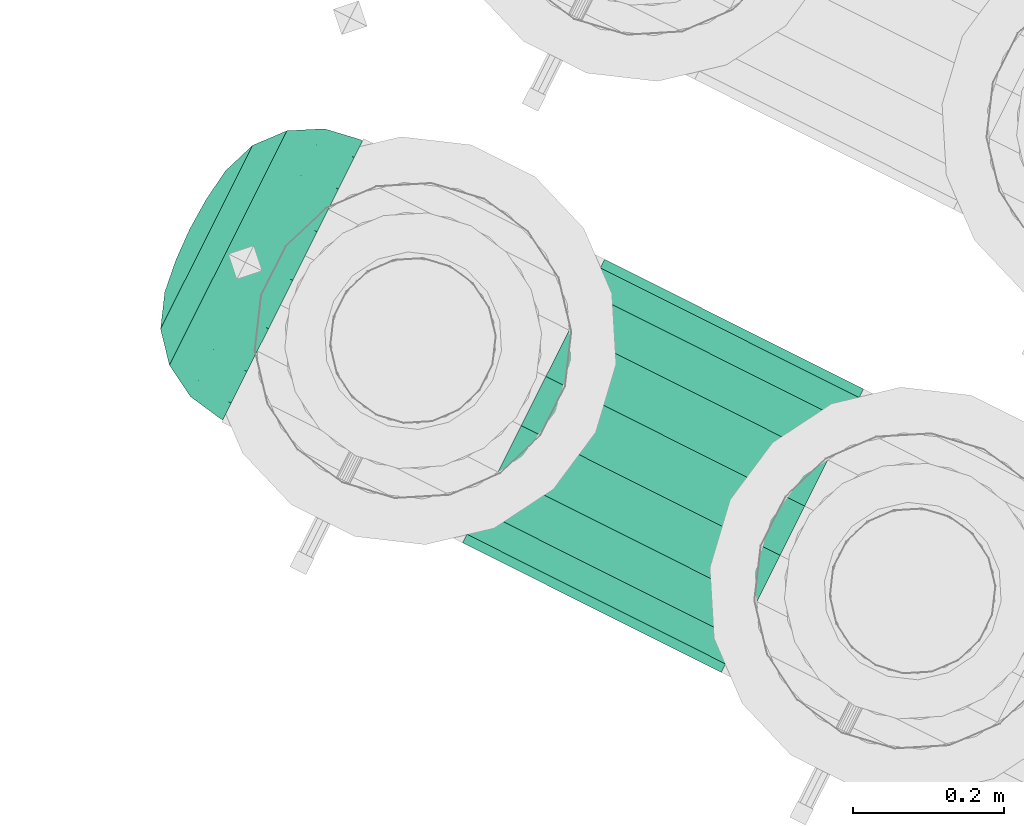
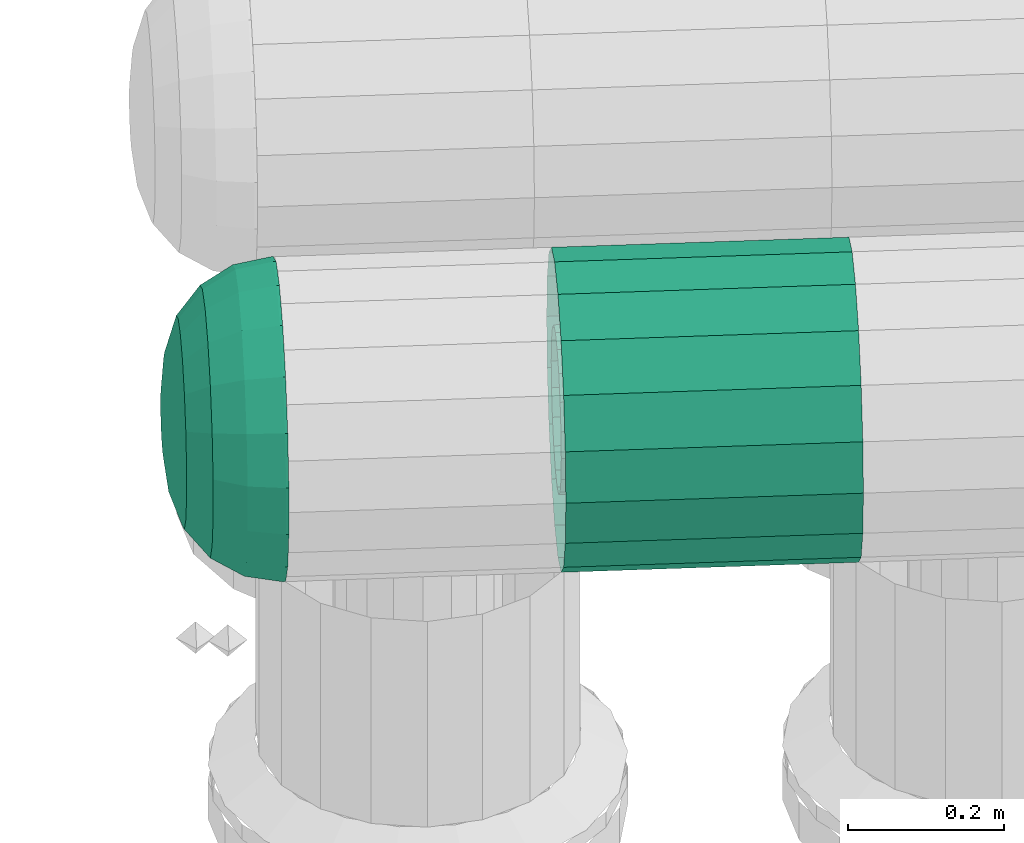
# One storey, part 87 of 152: 1 flow fitting, 1 flow segment.
"""IFC2X3 building model written with IfcOpenShell, lengths in metres."""

from ifc_helpers import new_model, si_unit, derived_unit, direction, frame, origin, place, context, subcontext, project, spatial, face_set, surface_model, source, transform, mapped, material, type_object, type_shapes, element, save


model = new_model("IFC2X3")

# Units and contexts
model_context = context("Model", 3, precision=5.2338327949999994e-05, world=origin(), true_north=direction((0.0, 1.0)))
body_context = subcontext(model_context, "Body", "Model", "MODEL_VIEW")
ifc_project = project(units=[si_unit("LENGTHUNIT", "METRE"), si_unit("AREAUNIT", "SQUARE_METRE"), si_unit("VOLUMEUNIT", "CUBIC_METRE"), si_unit("MASSUNIT", "GRAM", prefix="KILO"), si_unit("PLANEANGLEUNIT", "RADIAN"), derived_unit("THERMALTRANSMITTANCEUNIT", [(si_unit("MASSUNIT", "GRAM", prefix="KILO"), 1), (si_unit("THERMODYNAMICTEMPERATUREUNIT", "KELVIN"), -1), (si_unit("TIMEUNIT", "SECOND"), -3)])], contexts=[model_context])

# Site, building, storey
site_placement = place(None, frame((0.0, 0.0, 0.0), z_axis=(0.0, 0.0, 1.0), x_axis=(0.8939966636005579, -0.4480736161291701, 0.0)))
site = spatial("IfcSite", under=ifc_project, at=site_placement, Name="Default", CompositionType="ELEMENT")
building_placement = place(site_placement, origin())
building = spatial("IfcBuilding", under=site, at=building_placement, CompositionType="ELEMENT")
storey_placement = place(building_placement, frame((0.0, 0.0, 2.7499999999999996)))
storey = spatial("IfcBuildingStorey", under=building, at=storey_placement, Name="1. Obergeschoss", CompositionType="ELEMENT", Elevation=2.7499999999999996)

# Flow segment
ifc_material = material(Name="IfcSurfaceStyle #9317")
distribution_element_type_1 = type_object("IfcDistributionElementType", Name="Stahlrohr nach DIN 2448 226379:Stahlrohr nach DIN 2448 226379", material=ifc_material)
shared_shape_1 = source(origin(), body_context, "Body", "SurfaceModel", [
    surface_model("IfcFaceBasedSurfaceModel", [(5.6834190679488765, 7.217658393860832, 5.553028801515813), (5.6834190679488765, 7.224265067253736, 5.59049710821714), (5.300766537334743, 7.224265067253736, 5.59049710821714), (5.300766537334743, 7.217658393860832, 5.553028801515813), (5.6834190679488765, 7.243288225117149, 5.623446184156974), (5.300766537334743, 7.243288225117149, 5.623446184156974), (5.6834190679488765, 7.272433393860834, 5.6479018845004), (5.300766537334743, 7.272433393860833, 5.647901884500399), (5.6834190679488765, 7.30818523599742, 5.660914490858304), (5.300766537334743, 7.308185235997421, 5.660914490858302), (5.6834190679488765, 7.346231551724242, 5.660914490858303), (5.300766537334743, 7.346231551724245, 5.660914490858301), (5.6834190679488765, 7.381983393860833, 5.6479018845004), (5.300766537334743, 7.381983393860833, 5.6479018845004), (5.6834190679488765, 7.411128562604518, 5.623446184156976), (5.300766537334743, 7.411128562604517, 5.623446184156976), (5.6834190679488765, 7.430151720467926, 5.590497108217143), (5.300766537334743, 7.4301517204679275, 5.590497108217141), (5.6834190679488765, 7.436758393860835, 5.553028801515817), (5.300766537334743, 7.436758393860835, 5.553028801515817), (5.6834190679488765, 7.430151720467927, 5.51556049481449), (5.300766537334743, 7.430151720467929, 5.515560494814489), (5.6834190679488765, 7.411128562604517, 5.482611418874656), (5.300766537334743, 7.411128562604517, 5.482611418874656), (5.6834190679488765, 7.381983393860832, 5.458155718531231), (5.300766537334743, 7.381983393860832, 5.4581557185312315), (5.6834190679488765, 7.3462315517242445, 5.4451431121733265), (5.300766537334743, 7.346231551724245, 5.4451431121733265), (5.6834190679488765, 7.308185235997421, 5.445143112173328), (5.300766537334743, 7.3081852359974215, 5.445143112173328), (5.6834190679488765, 7.272433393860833, 5.45815571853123), (5.300766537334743, 7.272433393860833, 5.45815571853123), (5.6834190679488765, 7.243288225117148, 5.4826114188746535), (5.300766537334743, 7.2432882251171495, 5.482611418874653), (5.6834190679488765, 7.224265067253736, 5.515560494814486), (5.300766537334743, 7.224265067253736, 5.515560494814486), (5.6834190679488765, 7.117658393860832, 5.553028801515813), (5.6834190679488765, 7.130295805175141, 5.624699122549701), (5.300766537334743, 7.130295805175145, 5.624699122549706), (5.300766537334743, 7.117658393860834, 5.553028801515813), (5.6834190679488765, 7.166683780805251, 5.687724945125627), (5.300766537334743, 7.166683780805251, 5.687724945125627), (5.6834190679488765, 7.222433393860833, 5.734504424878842), (5.300766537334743, 7.222433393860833, 5.734504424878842), (5.6834190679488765, 7.290820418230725, 5.759395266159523), (5.300766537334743, 7.290820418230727, 5.7593952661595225), (5.6834190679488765, 7.363596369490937, 5.759395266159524), (5.300766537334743, 7.363596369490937, 5.759395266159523), (5.6834190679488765, 7.43198339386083, 5.734504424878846), (5.300766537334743, 7.431983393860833, 5.734504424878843), (5.6834190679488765, 7.487733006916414, 5.687724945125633), (5.300766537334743, 7.487733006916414, 5.687724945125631), (5.6834190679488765, 7.524120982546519, 5.62469912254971), (5.300766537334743, 7.5241209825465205, 5.6246991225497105), (5.6834190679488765, 7.536758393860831, 5.553028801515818), (5.300766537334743, 7.5367583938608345, 5.553028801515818), (5.6834190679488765, 7.5241209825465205, 5.481358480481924), (5.300766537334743, 7.5241209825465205, 5.481358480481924), (5.6834190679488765, 7.487733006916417, 5.418332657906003), (5.300766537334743, 7.487733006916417, 5.418332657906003), (5.6834190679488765, 7.431983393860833, 5.371553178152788), (5.300766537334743, 7.4319833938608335, 5.371553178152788), (5.6834190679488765, 7.36359636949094, 5.3466623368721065), (5.300766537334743, 7.36359636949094, 5.3466623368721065), (5.6834190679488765, 7.29082041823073, 5.346662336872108), (5.300766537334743, 7.290820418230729, 5.3466623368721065), (5.6834190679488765, 7.222433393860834, 5.371553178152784), (5.300766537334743, 7.222433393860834, 5.371553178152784), (5.6834190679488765, 7.16668378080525, 5.4183326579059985), (5.300766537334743, 7.166683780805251, 5.418332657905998), (5.6834190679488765, 7.130295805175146, 5.481358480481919), (5.300766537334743, 7.130295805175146, 5.481358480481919)], [face_set([[[0, 1, 2, 3]], [[1, 4, 5, 2]], [[4, 6, 7, 5]], [[6, 8, 9, 7]], [[8, 10, 11, 9]], [[10, 12, 13, 11]], [[12, 14, 15, 13]], [[14, 16, 17, 15]], [[16, 18, 19, 17]], [[18, 20, 21, 19]], [[20, 22, 23, 21]], [[22, 24, 25, 23]], [[24, 26, 27, 25]], [[26, 28, 29, 27]], [[28, 30, 31, 29]], [[30, 32, 33, 31]], [[32, 34, 35, 33]], [[34, 0, 3, 35]], [[36, 37, 38, 39]], [[37, 40, 41, 38]], [[40, 42, 43, 41]], [[42, 44, 45, 43]], [[44, 46, 47, 45]], [[46, 48, 49, 47]], [[48, 50, 51, 49]], [[50, 52, 53, 51]], [[52, 54, 55, 53]], [[54, 56, 57, 55]], [[56, 58, 59, 57]], [[58, 60, 61, 59]], [[60, 62, 63, 61]], [[62, 64, 65, 63]], [[64, 66, 67, 65]], [[66, 68, 69, 67]], [[68, 70, 71, 69]], [[70, 36, 39, 71]]])]),
])
type_shapes(distribution_element_type_1, [shared_shape_1])
flow_segment_placement = place(storey_placement, frame((0.0, 0.0, -2.7499999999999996)))
element("IfcFlowSegment", 1, at=flow_segment_placement, inside=storey, type_object=distribution_element_type_1, material=ifc_material, Name="Stahlrohr nach DIN 2448", ObjectType="Stahlrohr nach DIN 2448", context=body_context, shape_type="MappedRepresentation", body=[
    mapped(shared_shape_1, transform((0.0, 0.0, 0.0), scale=1.0)),
])

# Flow fitting
distribution_element_type_2 = type_object("IfcDistributionElementType", Name="Klöpperboden:Klöpperboden", material=ifc_material)
shared_shape_2 = source(origin(), body_context, "Body", "SurfaceModel", [
    surface_model("IfcFaceBasedSurfaceModel", [(4.898305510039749, 7.3272083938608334, 5.553028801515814), (4.903973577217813, 7.3272083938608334, 5.602659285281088), (4.903973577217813, 7.344183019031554, 5.599666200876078), (4.903973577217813, 7.3591102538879, 5.591047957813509), (4.903973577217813, 7.370189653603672, 5.577844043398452), (4.903973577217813, 7.376084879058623, 5.561647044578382), (4.903973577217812, 7.376084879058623, 5.544410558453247), (4.903973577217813, 7.3701896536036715, 5.528213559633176), (4.903973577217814, 7.359110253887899, 5.515009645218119), (4.903973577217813, 7.344183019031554, 5.5063914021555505), (4.903973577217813, 7.3272083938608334, 5.5033983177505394), (4.903973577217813, 7.310233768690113, 5.506391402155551), (4.903973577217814, 7.295306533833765, 5.51500964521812), (4.903973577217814, 7.284227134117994, 5.528213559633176), (4.903973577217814, 7.278331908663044, 5.544410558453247), (4.903973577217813, 7.278331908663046, 5.561647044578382), (4.903973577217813, 7.284227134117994, 5.577844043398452), (4.903973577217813, 7.295306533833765, 5.59104795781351), (4.903973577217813, 7.310233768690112, 5.599666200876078), (4.9206858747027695, 7.3272083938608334, 5.64973381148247), (4.92068587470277, 7.360283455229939, 5.64390178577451), (4.920685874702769, 7.3893691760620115, 5.627109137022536), (4.920685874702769, 7.410957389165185, 5.601381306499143), (4.9206858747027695, 7.422444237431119, 5.569821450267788), (4.920685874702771, 7.422444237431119, 5.536236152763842), (4.9206858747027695, 7.410957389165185, 5.504676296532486), (4.9206858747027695, 7.3893691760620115, 5.478948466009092), (4.9206858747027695, 7.360283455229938, 5.462155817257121), (4.92068587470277, 7.3272083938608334, 5.456323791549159), (4.92068587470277, 7.294133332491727, 5.462155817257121), (4.92068587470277, 7.265047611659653, 5.4789484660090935), (4.9206858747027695, 7.243459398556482, 5.5046762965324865), (4.920685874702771, 7.231972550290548, 5.536236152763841), (4.920685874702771, 7.231972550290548, 5.569821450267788), (4.9206858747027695, 7.243459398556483, 5.6013813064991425), (4.9206858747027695, 7.265047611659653, 5.627109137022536), (4.9206858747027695, 7.294133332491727, 5.64390178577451), (4.92575166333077, 7.3272083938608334, 5.656525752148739), (4.925751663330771, 7.362606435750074, 5.650284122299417), (4.925751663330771, 7.3937349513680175, 5.632312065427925), (4.925751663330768, 7.41683938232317, 5.604777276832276), (4.92575166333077, 7.42913299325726, 5.571000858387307), (4.92575166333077, 7.42913299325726, 5.535056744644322), (4.925751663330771, 7.41683938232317, 5.501280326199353), (4.92575166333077, 7.393734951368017, 5.473745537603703), (4.925751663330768, 7.362606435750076, 5.455773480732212), (4.92575166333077, 7.3272083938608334, 5.449531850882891), (4.92575166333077, 7.291810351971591, 5.455773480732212), (4.925751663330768, 7.26068183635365, 5.473745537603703), (4.92575166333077, 7.237577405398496, 5.5012803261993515), (4.925751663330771, 7.225283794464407, 5.535056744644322), (4.925751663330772, 7.225283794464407, 5.571000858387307), (4.925751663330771, 7.237577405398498, 5.6047772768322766), (4.925751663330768, 7.260681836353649, 5.632312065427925), (4.92575166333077, 7.2918103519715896, 5.650284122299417), (4.932939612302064, 7.3272083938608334, 5.6610119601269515), (4.9329396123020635, 7.364140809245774, 5.6544997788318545), (4.9329396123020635, 7.39661863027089, 5.6357487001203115), (4.932939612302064, 7.420724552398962, 5.607020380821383), (4.932939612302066, 7.433551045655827, 5.571779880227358), (4.932939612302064, 7.433551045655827, 5.534277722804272), (4.932939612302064, 7.420724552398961, 5.499037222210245), (4.932939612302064, 7.396618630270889, 5.470308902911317), (4.932939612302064, 7.364140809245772, 5.4515578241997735), (4.932939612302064, 7.3272083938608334, 5.445045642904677), (4.9329396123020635, 7.290275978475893, 5.451557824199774), (4.932939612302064, 7.257798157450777, 5.470308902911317), (4.932939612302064, 7.233692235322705, 5.499037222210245), (4.9329396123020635, 7.220865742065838, 5.534277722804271), (4.9329396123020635, 7.220865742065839, 5.571779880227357), (4.932939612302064, 7.233692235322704, 5.607020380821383), (4.932939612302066, 7.257798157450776, 5.635748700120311), (4.9329396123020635, 7.290275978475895, 5.654499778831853), (4.941266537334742, 7.3272083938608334, 5.6625788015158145), (4.941266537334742, 7.36467670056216, 5.65597212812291), (4.941266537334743, 7.397625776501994, 5.636948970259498), (4.941266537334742, 7.422081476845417, 5.6078038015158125), (4.941266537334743, 7.43509408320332, 5.572051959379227), (4.941266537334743, 7.43509408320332, 5.534005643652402), (4.941266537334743, 7.4220814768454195, 5.498253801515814), (4.941266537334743, 7.397625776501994, 5.469108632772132), (4.941266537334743, 7.36467670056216, 5.450085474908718), (4.941266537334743, 7.3272083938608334, 5.443478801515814), (4.941266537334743, 7.289740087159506, 5.450085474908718), (4.941266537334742, 7.256791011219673, 5.469108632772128), (4.941266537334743, 7.232335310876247, 5.498253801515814), (4.941266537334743, 7.219322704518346, 5.534005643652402), (4.941266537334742, 7.219322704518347, 5.572051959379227), (4.941266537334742, 7.2323353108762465, 5.607803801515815), (4.941266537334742, 7.256791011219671, 5.636948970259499), (4.9412665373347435, 7.289740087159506, 5.65597212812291), (4.944766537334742, 7.3272083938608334, 5.662578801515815), (4.944766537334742, 7.36467670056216, 5.655972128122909), (4.944766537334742, 7.397625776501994, 5.636948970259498), (4.944766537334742, 7.4220814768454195, 5.607803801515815), (4.944766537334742, 7.435094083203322, 5.572051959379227), (4.944766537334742, 7.435094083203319, 5.5340056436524), (4.9447665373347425, 7.422081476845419, 5.498253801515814), (4.944766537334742, 7.397625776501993, 5.469108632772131), (4.944766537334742, 7.3646767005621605, 5.450085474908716), (4.944766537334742, 7.327208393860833, 5.443478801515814), (4.944766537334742, 7.289740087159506, 5.450085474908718), (4.944766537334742, 7.256791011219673, 5.469108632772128), (4.944766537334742, 7.2323353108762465, 5.498253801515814), (4.944766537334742, 7.219322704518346, 5.534005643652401), (4.944766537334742, 7.219322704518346, 5.572051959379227), (4.944766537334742, 7.232335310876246, 5.607803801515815), (4.944766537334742, 7.256791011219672, 5.636948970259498), (4.944766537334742, 7.289740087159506, 5.655972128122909), (4.792616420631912, 7.3272083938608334, 5.553028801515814), (4.794581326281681, 7.3272083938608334, 5.5987364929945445), (4.794581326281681, 7.342841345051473, 5.595979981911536), (4.794581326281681, 7.356588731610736, 5.588042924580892), (4.794581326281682, 7.366792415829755, 5.575882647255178), (4.794581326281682, 7.372221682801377, 5.560965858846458), (4.794581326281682, 7.372221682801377, 5.54509174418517), (4.794581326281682, 7.366792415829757, 5.53017495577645), (4.794581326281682, 7.356588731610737, 5.5180146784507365), (4.794581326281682, 7.342841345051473, 5.510077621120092), (4.794581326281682, 7.3272083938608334, 5.5073211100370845), (4.794581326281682, 7.311575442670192, 5.510077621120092), (4.794581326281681, 7.29782805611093, 5.5180146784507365), (4.794581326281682, 7.287624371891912, 5.53017495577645), (4.794581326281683, 7.28219510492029, 5.54509174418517), (4.794581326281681, 7.28219510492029, 5.560965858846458), (4.794581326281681, 7.287624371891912, 5.575882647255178), (4.794581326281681, 7.297828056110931, 5.5880429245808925), (4.794581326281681, 7.3115754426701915, 5.595979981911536), (4.8004615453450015, 7.3272083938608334, 5.644106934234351), (4.8004615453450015, 7.3583589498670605, 5.6386142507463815), (4.800461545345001, 7.385752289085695, 5.622798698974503), (4.800461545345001, 7.406084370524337, 5.598567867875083), (4.8004615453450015, 7.416902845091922, 5.5688443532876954), (4.8004615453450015, 7.416902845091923, 5.537213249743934), (4.8004615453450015, 7.4060843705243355, 5.507489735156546), (4.800461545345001, 7.385752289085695, 5.483258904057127), (4.8004615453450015, 7.3583589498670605, 5.467443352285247), (4.8004615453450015, 7.3272083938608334, 5.461950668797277), (4.8004615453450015, 7.296057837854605, 5.467443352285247), (4.800461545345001, 7.268664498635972, 5.483258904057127), (4.800461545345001, 7.248332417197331, 5.507489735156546), (4.8004615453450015, 7.237513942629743, 5.5372132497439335), (4.800461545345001, 7.237513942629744, 5.568844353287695), (4.800461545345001, 7.248332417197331, 5.598567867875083), (4.800461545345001, 7.268664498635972, 5.622798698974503), (4.800461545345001, 7.296057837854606, 5.638614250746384), (4.817359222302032, 7.3272083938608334, 5.690874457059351), (4.8173592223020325, 7.3743543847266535, 5.682561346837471), (4.8173592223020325, 7.415813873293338, 5.658624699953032), (4.8173592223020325, 7.446586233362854, 5.621951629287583), (4.8173592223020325, 7.462959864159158, 5.576965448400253), (4.817359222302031, 7.462959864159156, 5.529092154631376), (4.8173592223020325, 7.446586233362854, 5.484105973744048), (4.817359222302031, 7.415813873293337, 5.447432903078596), (4.8173592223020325, 7.3743543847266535, 5.423496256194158), (4.817359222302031, 7.327208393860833, 5.415183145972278), (4.8173592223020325, 7.280062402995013, 5.423496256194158), (4.8173592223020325, 7.2386029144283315, 5.447432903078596), (4.8173592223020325, 7.207830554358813, 5.484105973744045), (4.817359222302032, 7.191456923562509, 5.529092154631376), (4.817359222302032, 7.191456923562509, 5.576965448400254), (4.8173592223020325, 7.207830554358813, 5.621951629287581), (4.8173592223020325, 7.2386029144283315, 5.658624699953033), (4.8173592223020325, 7.280062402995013, 5.682561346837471), (4.849258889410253, 7.3272083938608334, 5.729020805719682), (4.849258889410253, 7.387401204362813, 5.718407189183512), (4.849258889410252, 7.440333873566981, 5.687846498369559), (4.849258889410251, 7.479621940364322, 5.641024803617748), (4.849258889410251, 7.500526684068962, 5.583589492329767), (4.849258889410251, 7.500526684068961, 5.522468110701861), (4.849258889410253, 7.479621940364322, 5.46503279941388), (4.849258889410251, 7.44033387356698, 5.418211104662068), (4.849258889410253, 7.387401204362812, 5.3876504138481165), (4.849258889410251, 7.3272083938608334, 5.377036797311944), (4.849258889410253, 7.267015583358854, 5.3876504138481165), (4.849258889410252, 7.2140829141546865, 5.418211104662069), (4.849258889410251, 7.174794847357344, 5.46503279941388), (4.849258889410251, 7.1538901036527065, 5.522468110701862), (4.849258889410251, 7.153890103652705, 5.583589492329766), (4.849258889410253, 7.174794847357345, 5.641024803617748), (4.849258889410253, 7.214082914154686, 5.68784649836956), (4.849258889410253, 7.2670155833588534, 5.718407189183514), (4.892298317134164, 7.3272083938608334, 5.753927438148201), (4.89229831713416, 7.395919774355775, 5.741811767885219), (4.892298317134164, 7.45634354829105, 5.7069260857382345), (4.892298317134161, 7.50119171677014, 5.653478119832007), (4.892298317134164, 7.525054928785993, 5.587914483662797), (4.892298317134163, 7.52505492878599, 5.518143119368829), (4.892298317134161, 7.50119171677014, 5.452579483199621), (4.892298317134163, 7.456343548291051, 5.3991315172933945), (4.892298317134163, 7.3959197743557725, 5.364245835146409), (4.892298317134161, 7.3272083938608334, 5.352130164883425), (4.892298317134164, 7.2584970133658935, 5.364245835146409), (4.892298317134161, 7.198073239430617, 5.3991315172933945), (4.892298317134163, 7.153225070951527, 5.452579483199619), (4.892298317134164, 7.129361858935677, 5.518143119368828), (4.892298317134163, 7.129361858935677, 5.587914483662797), (4.892298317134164, 7.153225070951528, 5.653478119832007), (4.892298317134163, 7.198073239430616, 5.706926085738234), (4.892298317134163, 7.2584970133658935, 5.74181176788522), (4.941266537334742, 7.3272083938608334, 5.762578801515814), (4.941266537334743, 7.398878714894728, 5.749941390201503), (4.941266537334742, 7.461904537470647, 5.713553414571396), (4.941266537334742, 7.508684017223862, 5.657803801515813), (4.941266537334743, 7.533574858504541, 5.589416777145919), (4.941266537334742, 7.533574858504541, 5.516640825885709), (4.941266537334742, 7.508684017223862, 5.448253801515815), (4.941266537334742, 7.461904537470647, 5.392504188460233), (4.941266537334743, 7.398878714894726, 5.356116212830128), (4.941266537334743, 7.3272083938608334, 5.343478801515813), (4.941266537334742, 7.2555380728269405, 5.356116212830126), (4.941266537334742, 7.192512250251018, 5.392504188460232), (4.941266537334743, 7.145732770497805, 5.448253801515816), (4.941266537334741, 7.120841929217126, 5.516640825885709), (4.941266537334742, 7.120841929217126, 5.589416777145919), (4.941266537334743, 7.145732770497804, 5.657803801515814), (4.941266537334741, 7.19251225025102, 5.713553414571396), (4.941266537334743, 7.25553807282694, 5.7499413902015), (4.944766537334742, 7.3272083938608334, 5.762578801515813), (4.944766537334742, 7.398878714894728, 5.749941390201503), (4.944766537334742, 7.461904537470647, 5.713553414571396), (4.944766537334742, 7.508684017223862, 5.657803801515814), (4.9447665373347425, 7.533574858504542, 5.589416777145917), (4.944766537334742, 7.533574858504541, 5.516640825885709), (4.944766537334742, 7.508684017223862, 5.448253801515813), (4.944766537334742, 7.461904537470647, 5.392504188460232), (4.944766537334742, 7.398878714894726, 5.356116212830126), (4.9447665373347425, 7.3272083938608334, 5.343478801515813), (4.9447665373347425, 7.25553807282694, 5.356116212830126), (4.9447665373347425, 7.192512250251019, 5.392504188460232), (4.944766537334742, 7.145732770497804, 5.448253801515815), (4.944766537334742, 7.120841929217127, 5.516640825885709), (4.944766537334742, 7.120841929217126, 5.589416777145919), (4.9447665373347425, 7.145732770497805, 5.657803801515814), (4.944766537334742, 7.192512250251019, 5.713553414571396), (4.944766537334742, 7.2555380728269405, 5.749941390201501)], [face_set([[[0, 1, 2]], [[0, 2, 3]], [[0, 3, 4]], [[0, 4, 5]], [[0, 5, 6]], [[0, 6, 7]], [[0, 7, 8]], [[0, 8, 9]], [[0, 9, 10]], [[0, 10, 11]], [[0, 11, 12]], [[0, 12, 13]], [[0, 13, 14]], [[0, 14, 15]], [[0, 15, 16]], [[0, 16, 17]], [[0, 17, 18]], [[0, 18, 1]], [[1, 19, 20, 2]], [[2, 20, 21, 3]], [[3, 21, 22, 4]], [[4, 22, 23, 5]], [[5, 23, 24, 6]], [[6, 24, 25, 7]], [[7, 25, 26, 8]], [[8, 26, 27, 9]], [[9, 27, 28, 10]], [[10, 28, 29, 11]], [[11, 29, 30, 12]], [[12, 30, 31, 13]], [[13, 31, 32, 14]], [[14, 32, 33, 15]], [[15, 33, 34, 16]], [[16, 34, 35, 17]], [[17, 35, 36, 18]], [[18, 36, 19, 1]], [[19, 37, 38, 20]], [[20, 38, 39, 21]], [[21, 39, 40, 22]], [[22, 40, 41, 23]], [[23, 41, 42, 24]], [[24, 42, 43, 25]], [[25, 43, 44, 26]], [[26, 44, 45, 27]], [[27, 45, 46, 28]], [[28, 46, 47, 29]], [[29, 47, 48, 30]], [[30, 48, 49, 31]], [[31, 49, 50, 32]], [[32, 50, 51, 33]], [[33, 51, 52, 34]], [[34, 52, 53, 35]], [[35, 53, 54, 36]], [[36, 54, 37, 19]], [[37, 55, 56, 38]], [[38, 56, 57, 39]], [[39, 57, 58, 40]], [[40, 58, 59, 41]], [[41, 59, 60, 42]], [[42, 60, 61, 43]], [[43, 61, 62, 44]], [[44, 62, 63, 45]], [[45, 63, 64, 46]], [[46, 64, 65, 47]], [[47, 65, 66, 48]], [[48, 66, 67, 49]], [[49, 67, 68, 50]], [[50, 68, 69, 51]], [[51, 69, 70, 52]], [[52, 70, 71, 53]], [[53, 71, 72, 54]], [[54, 72, 55, 37]], [[55, 73, 74, 56]], [[56, 74, 75, 57]], [[57, 75, 76, 58]], [[58, 76, 77, 59]], [[59, 77, 78, 60]], [[60, 78, 79, 61]], [[61, 79, 80, 62]], [[62, 80, 81, 63]], [[63, 81, 82, 64]], [[64, 82, 83, 65]], [[65, 83, 84, 66]], [[66, 84, 85, 67]], [[67, 85, 86, 68]], [[68, 86, 87, 69]], [[69, 87, 88, 70]], [[70, 88, 89, 71]], [[71, 89, 90, 72]], [[72, 90, 73, 55]], [[73, 91, 92, 74]], [[74, 92, 93, 75]], [[75, 93, 94, 76]], [[76, 94, 95, 77]], [[77, 95, 96, 78]], [[78, 96, 97, 79]], [[79, 97, 98, 80]], [[80, 98, 99, 81]], [[81, 99, 100, 82]], [[82, 100, 101, 83]], [[83, 101, 102, 84]], [[84, 102, 103, 85]], [[85, 103, 104, 86]], [[86, 104, 105, 87]], [[87, 105, 106, 88]], [[88, 106, 107, 89]], [[89, 107, 108, 90]], [[90, 108, 91, 73]], [[109, 110, 111]], [[109, 111, 112]], [[109, 112, 113]], [[109, 113, 114]], [[109, 114, 115]], [[109, 115, 116]], [[109, 116, 117]], [[109, 117, 118]], [[109, 118, 119]], [[109, 119, 120]], [[109, 120, 121]], [[109, 121, 122]], [[109, 122, 123]], [[109, 123, 124]], [[109, 124, 125]], [[109, 125, 126]], [[109, 126, 127]], [[109, 127, 110]], [[110, 128, 129, 111]], [[111, 129, 130, 112]], [[112, 130, 131, 113]], [[113, 131, 132, 114]], [[114, 132, 133, 115]], [[115, 133, 134, 116]], [[116, 134, 135, 117]], [[117, 135, 136, 118]], [[118, 136, 137, 119]], [[119, 137, 138, 120]], [[120, 138, 139, 121]], [[121, 139, 140, 122]], [[122, 140, 141, 123]], [[123, 141, 142, 124]], [[124, 142, 143, 125]], [[125, 143, 144, 126]], [[126, 144, 145, 127]], [[127, 145, 128, 110]], [[128, 146, 147, 129]], [[129, 147, 148, 130]], [[130, 148, 149, 131]], [[131, 149, 150, 132]], [[132, 150, 151, 133]], [[133, 151, 152, 134]], [[134, 152, 153, 135]], [[135, 153, 154, 136]], [[136, 154, 155, 137]], [[137, 155, 156, 138]], [[138, 156, 157, 139]], [[139, 157, 158, 140]], [[140, 158, 159, 141]], [[141, 159, 160, 142]], [[142, 160, 161, 143]], [[143, 161, 162, 144]], [[144, 162, 163, 145]], [[145, 163, 146, 128]], [[146, 164, 165, 147]], [[147, 165, 166, 148]], [[148, 166, 167, 149]], [[149, 167, 168, 150]], [[150, 168, 169, 151]], [[151, 169, 170, 152]], [[152, 170, 171, 153]], [[153, 171, 172, 154]], [[154, 172, 173, 155]], [[155, 173, 174, 156]], [[156, 174, 175, 157]], [[157, 175, 176, 158]], [[158, 176, 177, 159]], [[159, 177, 178, 160]], [[160, 178, 179, 161]], [[161, 179, 180, 162]], [[162, 180, 181, 163]], [[163, 181, 164, 146]], [[164, 182, 183, 165]], [[165, 183, 184, 166]], [[166, 184, 185, 167]], [[167, 185, 186, 168]], [[168, 186, 187, 169]], [[169, 187, 188, 170]], [[170, 188, 189, 171]], [[171, 189, 190, 172]], [[172, 190, 191, 173]], [[173, 191, 192, 174]], [[174, 192, 193, 175]], [[175, 193, 194, 176]], [[176, 194, 195, 177]], [[177, 195, 196, 178]], [[178, 196, 197, 179]], [[179, 197, 198, 180]], [[180, 198, 199, 181]], [[181, 199, 182, 164]], [[182, 200, 201, 183]], [[183, 201, 202, 184]], [[184, 202, 203, 185]], [[185, 203, 204, 186]], [[186, 204, 205, 187]], [[187, 205, 206, 188]], [[188, 206, 207, 189]], [[189, 207, 208, 190]], [[190, 208, 209, 191]], [[191, 209, 210, 192]], [[192, 210, 211, 193]], [[193, 211, 212, 194]], [[194, 212, 213, 195]], [[195, 213, 214, 196]], [[196, 214, 215, 197]], [[197, 215, 216, 198]], [[198, 216, 217, 199]], [[199, 217, 200, 182]], [[200, 218, 219, 201]], [[201, 219, 220, 202]], [[202, 220, 221, 203]], [[203, 221, 222, 204]], [[204, 222, 223, 205]], [[205, 223, 224, 206]], [[206, 224, 225, 207]], [[207, 225, 226, 208]], [[208, 226, 227, 209]], [[209, 227, 228, 210]], [[210, 228, 229, 211]], [[211, 229, 230, 212]], [[212, 230, 231, 213]], [[213, 231, 232, 214]], [[214, 232, 233, 215]], [[215, 233, 234, 216]], [[216, 234, 235, 217]], [[217, 235, 218, 200]]])]),
])
type_shapes(distribution_element_type_2, [shared_shape_2])
flow_fitting_placement = place(storey_placement, frame((0.0, 0.0, -2.7499999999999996)))
element("IfcFlowFitting", 2, at=flow_fitting_placement, inside=storey, type_object=distribution_element_type_2, material=ifc_material, Name="Klöpperboden", ObjectType="Klöpperboden", context=body_context, shape_type="MappedRepresentation", body=[
    mapped(shared_shape_2, transform((0.0, 0.0, 0.0), scale=1.0)),
])

save(model, "model.ifc")
